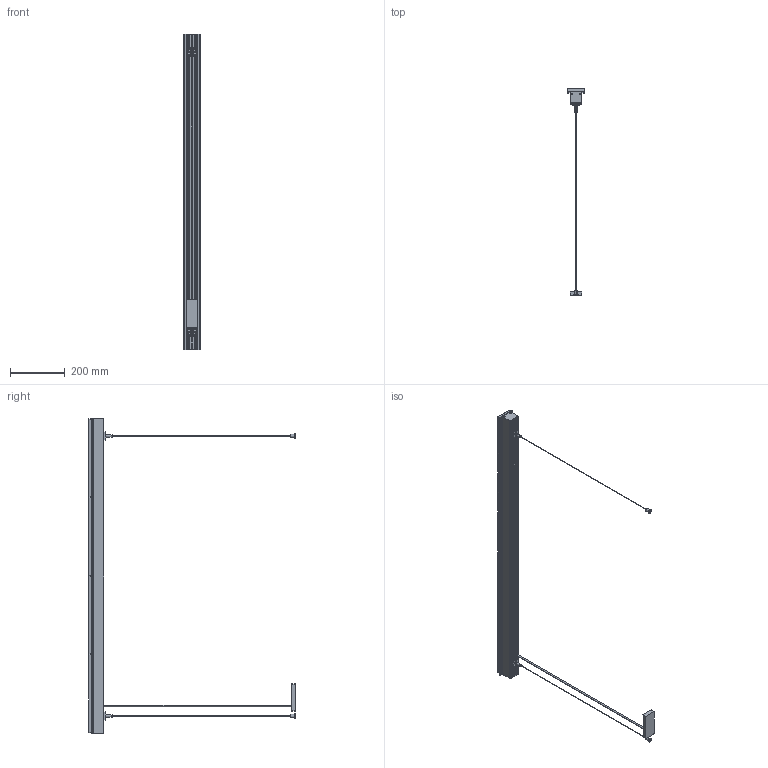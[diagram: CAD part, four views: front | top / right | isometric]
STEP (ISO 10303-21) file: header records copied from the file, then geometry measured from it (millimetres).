
FILE_DESCRIPTION (( 'STEP AP214' ), '1' );
FILE_NAME ('Pixel C 11.STEP', '2017-10-10T10:03:51', ( 'tecnica2' ), ( 'Microsoft' ), 'SwSTEP 2.0', 'SolidWorks 2016', '' );
FILE_SCHEMA (( 'AUTOMOTIVE_DESIGN' ));
Length unit declared in the file: millimetre
Products named in the file (8): lente-BIM; Perfil LED-BIM_X4 (L:1150); Pixel C 11; kit luz Pixel-BIM; kit colgante Pixel-BIM; TT 65 T 3X6; Tapa-BIM_definitiva; Perfil DRIVER-BIM_X4 (L:1150mm)
Assembly tree (15 placements, depth 2):
  Pixel C 11
    Perfil LED-BIM_X4 (L:1150)
    lente-BIM  x4
    Perfil DRIVER-BIM_X4 (L:1150mm)
    Tapa-BIM_definitiva  x2
    TT 65 T 3X6  x4
    kit colgante Pixel-BIM  x2
    kit luz Pixel-BIM
Bounding box: 62 x 756.13 x 1154 mm (x, y, z)
Volume: 3013777.5 mm3; surface area: 653583.3 mm2
Topology: 25 solids, 25 shells, 1083 faces, 2702 edges, 1656 vertices
Faces by surface type: plane 387, cylinder 356, bspline 212, cone 88, sphere 24, torus 16
Entity records: 19209 total; most frequent: CARTESIAN_POINT 4318, ORIENTED_EDGE 2422, DIRECTION 2241, EDGE_CURVE 1211, AXIS2_PLACEMENT_3D 798, VERTEX_POINT 774, VECTOR 645, LINE 645
